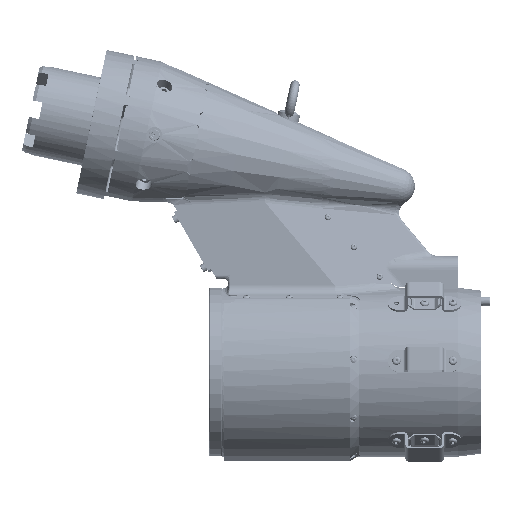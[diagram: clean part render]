
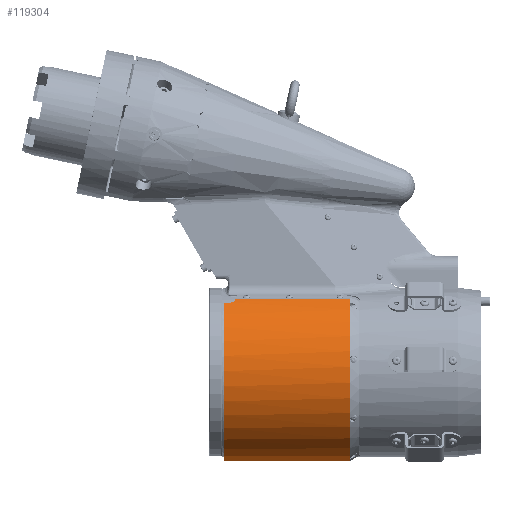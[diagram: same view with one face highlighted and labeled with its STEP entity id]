
A CAD part, front view. The second image highlights one B-rep face of the part: STEP entity #119304.
In plain terms, the highlighted cylindrical face has radius 81 mm (diameter 162 mm), a partial arc.
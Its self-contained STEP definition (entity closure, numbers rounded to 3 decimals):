
#119100=AXIS2_PLACEMENT_3D('Circle Axis2P3D',#119098,#119099,$) ;
#119247=AXIS2_PLACEMENT_3D('Cylinder Axis2P3D',#119244,#119245,#119246) ;
#119262=AXIS2_PLACEMENT_3D('Circle Axis2P3D',#119260,#119261,$) ;
#119276=AXIS2_PLACEMENT_3D('Circle Axis2P3D',#119274,#119275,$) ;
#119093=CARTESIAN_POINT('Vertex',(65.145,-110.,-48.136)) ;
#119098=CARTESIAN_POINT('Axis2P3D Location',(0.,-110.,0.)) ;
#119102=CARTESIAN_POINT('Vertex',(65.167,-110.,-48.107)) ;
#119209=CARTESIAN_POINT('Line Origine',(65.167,-60.712,-48.107)) ;
#119213=CARTESIAN_POINT('Vertex',(65.167,-8.569,-48.107)) ;
#119244=CARTESIAN_POINT('Axis2P3D Location',(0.,0.,0.)) ;
#119250=CARTESIAN_POINT('Control Point',(61.402,-120.,-52.828)) ;
#119251=CARTESIAN_POINT('Control Point',(61.658,-120.,-52.53)) ;
#119252=CARTESIAN_POINT('Control Point',(61.915,-119.791,-52.227)) ;
#119253=CARTESIAN_POINT('Control Point',(62.05,-119.393,-52.066)) ;
#119254=CARTESIAN_POINT('Control Point',(62.05,-119.,-52.066)) ;
#119255=CARTESIAN_POINT('Vertex',(62.05,-119.,-52.066)) ;
#119257=CARTESIAN_POINT('Vertex',(61.402,-120.,-52.828)) ;
#119260=CARTESIAN_POINT('Axis2P3D Location',(0.,-120.,0.)) ;
#119264=CARTESIAN_POINT('Vertex',(-78.616,-120.,-19.507)) ;
#119267=CARTESIAN_POINT('Line Origine',(-78.616,-64.284,-19.507)) ;
#119271=CARTESIAN_POINT('Vertex',(-78.616,-8.569,-19.507)) ;
#119274=CARTESIAN_POINT('Axis2P3D Location',(0.,-8.569,0.)) ;
#119280=CARTESIAN_POINT('Control Point',(65.145,-110.,-48.136)) ;
#119281=CARTESIAN_POINT('Control Point',(64.211,-110.,-49.4)) ;
#119282=CARTESIAN_POINT('Control Point',(63.246,-110.613,-50.643)) ;
#119283=CARTESIAN_POINT('Control Point',(62.445,-111.856,-51.594)) ;
#119284=CARTESIAN_POINT('Control Point',(62.05,-113.429,-52.066)) ;
#119285=CARTESIAN_POINT('Control Point',(62.05,-115.,-52.066)) ;
#119286=CARTESIAN_POINT('Vertex',(62.05,-115.,-52.066)) ;
#119289=CARTESIAN_POINT('Line Origine',(62.05,-64.284,-52.066)) ;
#119099=DIRECTION('Axis2P3D Direction',(0.,1.,0.)) ;
#119210=DIRECTION('Vector Direction',(0.,-1.,0.)) ;
#119245=DIRECTION('Axis2P3D Direction',(-0.,1.,0.)) ;
#119246=DIRECTION('Axis2P3D XDirection',(1.,0.,0.)) ;
#119261=DIRECTION('Axis2P3D Direction',(-0.,1.,0.)) ;
#119268=DIRECTION('Vector Direction',(0.,1.,0.)) ;
#119275=DIRECTION('Axis2P3D Direction',(-0.,1.,0.)) ;
#119290=DIRECTION('Vector Direction',(0.,1.,0.)) ;
#119211=VECTOR('Line Direction',#119210,1.) ;
#119269=VECTOR('Line Direction',#119268,1.) ;
#119291=VECTOR('Line Direction',#119290,1.) ;
#119295=ORIENTED_EDGE('',*,*,#119259,.T.) ;
#119296=ORIENTED_EDGE('',*,*,#119266,.T.) ;
#119297=ORIENTED_EDGE('',*,*,#119273,.T.) ;
#119298=ORIENTED_EDGE('',*,*,#119278,.F.) ;
#119299=ORIENTED_EDGE('',*,*,#119215,.F.) ;
#119300=ORIENTED_EDGE('',*,*,#119104,.T.) ;
#119301=ORIENTED_EDGE('',*,*,#119288,.F.) ;
#119302=ORIENTED_EDGE('',*,*,#119293,.F.) ;
#119304=ADVANCED_FACE('Corps principal',(#119303),#119248,.T.) ;
#119249=B_SPLINE_CURVE_WITH_KNOTS('',4,(#119250,#119251,#119252,#119253,#119254),.UNSPECIFIED.,.F.,.U.,(5,5),(0.,2.221),.UNSPECIFIED.) ;
#119279=B_SPLINE_CURVE_WITH_KNOTS('',5,(#119280,#119281,#119282,#119283,#119284,#119285),.UNSPECIFIED.,.F.,.U.,(6,6),(0.,11.111),.UNSPECIFIED.) ;
#119101=CIRCLE('generated circle',#119100,81.) ;
#119263=CIRCLE('generated circle',#119262,81.) ;
#119277=CIRCLE('generated circle',#119276,81.) ;
#119248=CYLINDRICAL_SURFACE('generated cylinder',#119247,81.) ;
#119104=EDGE_CURVE('',#119103,#119094,#119101,.T.) ;
#119215=EDGE_CURVE('',#119103,#119214,#119212,.F.) ;
#119259=EDGE_CURVE('',#119256,#119258,#119249,.F.) ;
#119266=EDGE_CURVE('',#119258,#119265,#119263,.T.) ;
#119273=EDGE_CURVE('',#119265,#119272,#119270,.T.) ;
#119278=EDGE_CURVE('',#119214,#119272,#119277,.T.) ;
#119288=EDGE_CURVE('',#119287,#119094,#119279,.F.) ;
#119293=EDGE_CURVE('',#119256,#119287,#119292,.T.) ;
#119294=EDGE_LOOP('',(#119295,#119296,#119297,#119298,#119299,#119300,#119301,#119302)) ;
#119303=FACE_OUTER_BOUND('',#119294,.T.) ;
#119212=LINE('Line',#119209,#119211) ;
#119270=LINE('Line',#119267,#119269) ;
#119292=LINE('Line',#119289,#119291) ;
#119094=VERTEX_POINT('',#119093) ;
#119103=VERTEX_POINT('',#119102) ;
#119214=VERTEX_POINT('',#119213) ;
#119256=VERTEX_POINT('',#119255) ;
#119258=VERTEX_POINT('',#119257) ;
#119265=VERTEX_POINT('',#119264) ;
#119272=VERTEX_POINT('',#119271) ;
#119287=VERTEX_POINT('',#119286) ;
